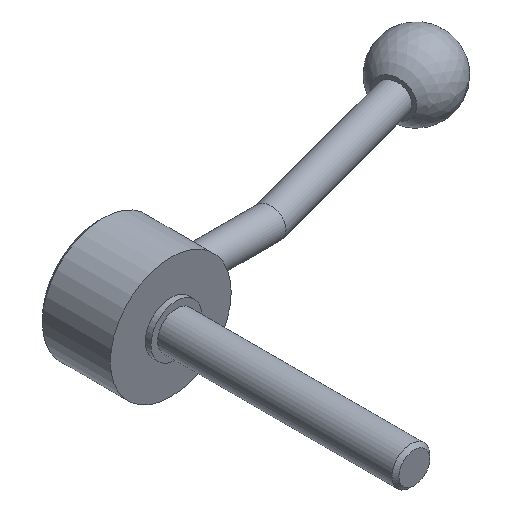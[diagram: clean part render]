
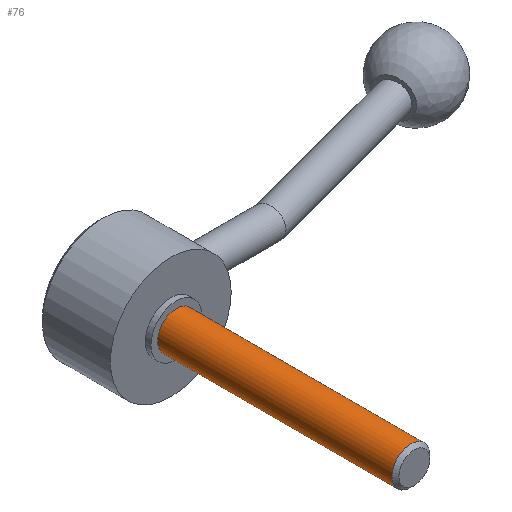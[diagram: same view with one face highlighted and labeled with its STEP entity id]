
A CAD part, isometric view. The second image highlights one B-rep face of the part: STEP entity #76.
In plain terms, the highlighted cylindrical face has radius 5 mm (diameter 10 mm), a full revolution.
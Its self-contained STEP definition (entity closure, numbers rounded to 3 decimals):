
#76 = ADVANCED_FACE( '', ( #94, #95 ), #96, .T. );
#94 = FACE_OUTER_BOUND( '', #138, .T. );
#95 = FACE_OUTER_BOUND( '', #139, .T. );
#96 = CYLINDRICAL_SURFACE( '', #140, 5. );
#138 = EDGE_LOOP( '', ( #184 ) );
#139 = EDGE_LOOP( '', ( #185 ) );
#140 = AXIS2_PLACEMENT_3D( '', #186, #187, #188 );
#184 = ORIENTED_EDGE( '', *, *, #254, .F. );
#185 = ORIENTED_EDGE( '', *, *, #255, .T. );
#186 = CARTESIAN_POINT( '', ( 0., -63., 0. ) );
#187 = DIRECTION( '', ( 0., 1., 0. ) );
#188 = DIRECTION( '', ( 0., 0., -1. ) );
#254 = EDGE_CURVE( '', #270, #270, #271, .T. );
#255 = EDGE_CURVE( '', #272, #272, #273, .T. );
#270 = VERTEX_POINT( '', #298 );
#271 = CIRCLE( '', #299, 5. );
#272 = VERTEX_POINT( '', #300 );
#273 = CIRCLE( '', #301, 5. );
#298 = CARTESIAN_POINT( '', ( 0., -62.08, -5. ) );
#299 = AXIS2_PLACEMENT_3D( '', #392, #393, #394 );
#300 = CARTESIAN_POINT( '', ( 0., 0., -5. ) );
#301 = AXIS2_PLACEMENT_3D( '', #395, #396, #397 );
#392 = CARTESIAN_POINT( '', ( 0., -62.08, 0. ) );
#393 = DIRECTION( '', ( 0., -1., 0. ) );
#394 = DIRECTION( '', ( 0., 0., -1. ) );
#395 = CARTESIAN_POINT( '', ( 0., 0., 0. ) );
#396 = DIRECTION( '', ( 0., -1., 0. ) );
#397 = DIRECTION( '', ( 0., 0., -1. ) );
